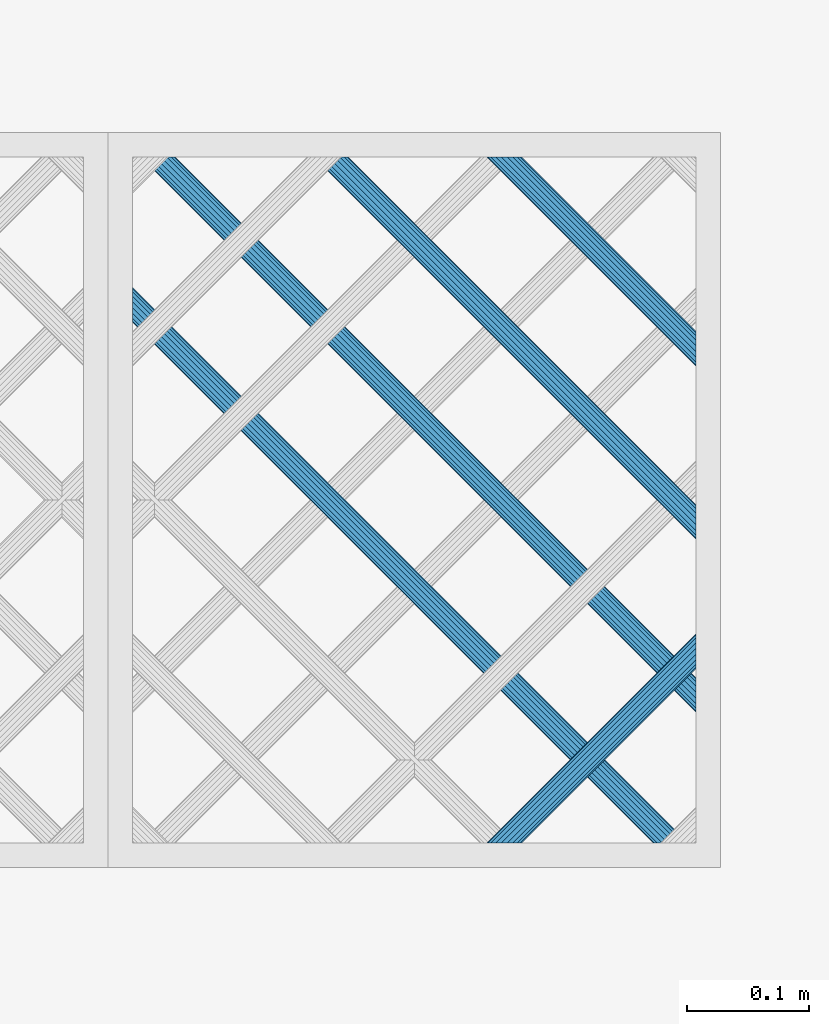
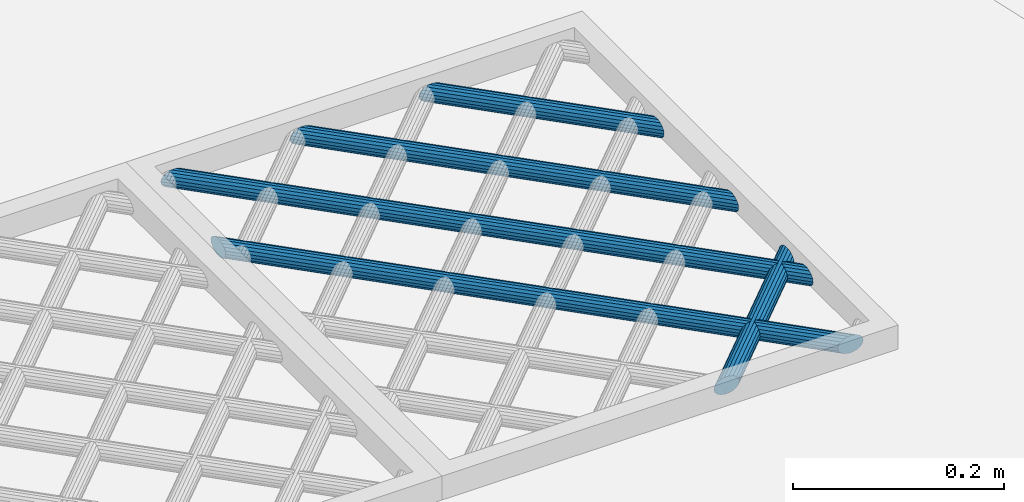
# One storey, part 77 of 133: 5 members, 1 element without a shape of its own.
"""IFC2X3 building model written with IfcOpenShell, lengths in centimetres."""

from ifc_helpers import new_model, entity, si_unit, converted_unit, direction, frame, origin, origin_with_axes, place, context, subcontext, project, spatial, faceted_brep, material, type_object, element, aggregate, save


model = new_model("IFC2X3")

# Units and contexts
model_context = context("Model", 3, precision=0.0001, world=origin(), true_north=direction((0.225632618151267, 0.974212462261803, 0.0)))
body_context = subcontext(model_context, "Body", "Model", "MODEL_VIEW")
ifc_project = project(units=[si_unit("LENGTHUNIT", "METRE", prefix="CENTI"), si_unit("AREAUNIT", "SQUARE_METRE", prefix="CENTI"), si_unit("VOLUMEUNIT", "CUBIC_METRE", prefix="CENTI"), converted_unit("PLANEANGLEUNIT", "DEGREE", entity("IfcRatioMeasure", 0.0174532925), si_unit("PLANEANGLEUNIT", "RADIAN"), dimensions=[0, 0, 0, 0, 0, 0, 0])], contexts=[model_context])

# Site, building, storey
site_placement = place(None, origin_with_axes())
site = spatial("IfcSite", under=ifc_project, at=site_placement, Name="Default Site", CompositionType="ELEMENT")
building_placement = place(site_placement, origin_with_axes())
building = spatial("IfcBuilding", under=site, at=building_placement, Name="Default Building", CompositionType="ELEMENT")
storey_placement = place(building_placement, frame((0.0, 0.0, -291.400371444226), z_axis=(0.0, 0.0, 1.0), x_axis=(1.0, 0.0, 0.0)))
storey = spatial("IfcBuildingStorey", under=building, at=storey_placement, Name="Rez-de-Jardin", CompositionType="ELEMENT", Elevation=-291.400371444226)

# Assembly, members
building_element_proxy_type = type_object("IfcBuildingElementProxyType", Name="Type Object", PredefinedType="NOTDEFINED")
assembly_placement = place(storey_placement, frame((23.728219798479, 1298.33524038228, 113.0), z_axis=(0.0, 1.0, -2.38697950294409e-15), x_axis=(1.0, 0.0, 0.0)))
assembly = element("IfcElementAssembly", 1, at=assembly_placement, inside=storey, type_object=building_element_proxy_type, Name="Panneau 326485", ObjectType="Precast panel", PredefinedType="USERDEFINED")
ifc_material = material(Name="Aluminium satiné")
member_1_placement = place(assembly_placement, frame((47.9999989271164, 0.3420201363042, 16.3157343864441), z_axis=(0.999999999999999, 0.0, 0.0), x_axis=(0.0, -0.774596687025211, -0.632455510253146)))
member_1 = element("IfcMember", 2, at=member_1_placement, material=ifc_material, Name="4294966878", context=body_context, shape_type="Brep", body=[
    faceted_brep([(2.13717932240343e-13, -1.06858966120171e-13, 0.0), (-0.388289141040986, -1.06858966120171e-13, 0.0), (-0.799165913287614, -0.15024930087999, 0.0), (-1.18307291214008, -0.432626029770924, 0.0), (-1.49370420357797, -0.813070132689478, 0.0), (-1.69359339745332, -1.24569483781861, 0.0), (-1.75863166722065, -1.67832007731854, 0.0), (-1.68097381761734, -2.05876418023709, 0.0), (-1.46998625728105, -2.34113956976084, 0.0), (-1.15111848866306, -2.49138921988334, 0.0), (-0.762829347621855, -2.49138921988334, 0.0), (-0.351952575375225, -2.34113991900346, 0.0), (0.0319534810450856, -2.05876434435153, 0.0), (0.342584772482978, -1.67832024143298, 0.0), (0.542474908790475, -1.24569438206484, 0.0), (0.607513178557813, -0.813069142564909, 0.0), (0.529855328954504, -0.432625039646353, 0.0), (0.318867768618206, -0.150249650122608, 0.0), (9.31899278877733, 10.8726079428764, -14.2304450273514), (9.58392045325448, 10.6562954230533, -14.3157333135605), (9.81689394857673, 10.466073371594, -14.5613104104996), (9.98981319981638, 10.324885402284, -14.9375528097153), (10.0818216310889, 10.2497608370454, -15.3990834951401), (10.0818216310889, 10.2497608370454, -15.890234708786), (9.98981319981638, 10.324885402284, -16.3517653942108), (9.81689394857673, 10.466073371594, -16.7280107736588), (9.58392045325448, 10.6562954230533, -16.9735848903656), (9.31899278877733, 10.8726079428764, -17.0588731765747), (9.05406512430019, 11.0889204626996, -16.9735848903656), (8.82109162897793, 11.2791425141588, -16.7280107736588), (8.64817237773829, 11.4203304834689, -16.3517653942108), (8.55616394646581, 11.4954550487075, -15.890234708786), (8.55616394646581, 11.4954550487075, -15.3990834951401), (8.64817237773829, 11.4203304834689, -14.9375528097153), (8.82109162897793, 11.2791425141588, -14.5613104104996), (9.05406512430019, 11.0889204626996, -14.3157333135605), (0.529855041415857, -0.432625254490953, -3.48273316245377e-07), (9.58391971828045, 10.6562948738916, -14.3157342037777), (9.31899174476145, 10.8726071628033, -14.2304462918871), (0.607513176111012, -0.813069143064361, -1.93436589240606e-09), (9.81689412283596, 10.4660734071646, -14.5613102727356), (9.58391992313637, 10.6562953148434, -14.3157337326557), (0.542475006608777, -1.24569439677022, 5.04749817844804e-08), (9.98981285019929, 10.3248854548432, -14.9375529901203), (9.81689409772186, 10.4660733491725, -14.5613103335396), (0.34258496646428, -1.67832033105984, 5.32598692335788e-08), (10.0818212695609, 10.2497610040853, -15.3990835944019), (9.98981296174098, 10.3248855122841, -14.9375528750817), (-0.351952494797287, -2.34114002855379, -3.38953654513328e-08), (9.98981364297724, 10.3248847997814, -16.3517655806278), (10.0818219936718, 10.2497603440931, -15.8902348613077), (-0.762829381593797, -2.49138912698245, 5.04749821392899e-08), (9.81689406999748, 10.4660730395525, -16.7280109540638), (9.98981356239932, 10.3248844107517, -16.3517659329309), (-1.15111848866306, -2.4913892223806, -1.93436714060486e-09), (9.58392045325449, 10.6562941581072, -16.9735858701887), (9.81689394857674, 10.4660728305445, -16.7280111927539), (-1.46998641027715, -2.34113989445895, -3.48273315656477e-07), (9.31899239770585, 10.8726071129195, -17.0588740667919), (9.58391989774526, 10.6562942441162, -16.9735861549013), (-1.6809735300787, -2.05876396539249, 3.48273315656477e-07), (9.05406436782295, 11.088919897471, -16.973585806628), (9.31899234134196, 10.8726076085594, -17.0588737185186), (-1.75863166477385, -1.67832007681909, 1.93436650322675e-09), (8.82109110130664, 11.2791424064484, -16.7280111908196), (9.05406388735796, 11.0889202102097, -16.9735858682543), (-1.69359349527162, -1.24569482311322, -5.04749811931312e-08), (8.64817123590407, 11.420330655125, -16.3517659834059), (8.82109118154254, 11.2791425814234, -16.7280110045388), (-1.49370408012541, -0.813070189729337, 3.38953655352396e-08), (8.5561635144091, 11.4954552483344, -15.8902348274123), (8.64817182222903, 11.4203307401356, -16.3517655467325), (-0.799165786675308, -0.150249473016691, -5.3259868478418e-08), (8.64817265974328, 11.4203301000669, -14.9375529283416), (8.55616430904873, 11.4954545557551, -15.3990836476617), (-0.388289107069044, -9.29009993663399e-08, -5.04749817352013e-08), (8.82109161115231, 11.2791425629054, -14.5613103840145), (8.64817253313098, 11.4203300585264, -14.9375530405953), (2.13692234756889e-13, 2.49714834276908e-09, 1.93436558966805e-09), (9.05406512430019, 11.0889199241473, -14.3157337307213), (8.82109162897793, 11.2791426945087, -14.5613102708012), (0.318867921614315, -0.150249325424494, 3.48273315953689e-07), (9.31899238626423, 10.8726070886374, -14.2304459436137), (9.05406488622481, 11.0889199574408, -14.3157338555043)], [[[0, 1, 2, 3, 4, 5, 6, 7, 8, 9, 10, 11, 12, 13, 14, 15, 16, 17]], [[18, 19, 20, 21, 22, 23, 24, 25, 26, 27, 28, 29, 30, 31, 32, 33, 34, 35]], [[17, 36, 37, 38]], [[16, 39, 40, 41]], [[15, 42, 43, 44]], [[14, 45, 46, 47]], [[13, 12, 23, 22]], [[12, 48, 49, 50]], [[11, 51, 52, 53]], [[10, 54, 55, 56]], [[9, 57, 58, 59]], [[8, 60, 61, 62]], [[7, 63, 64, 65]], [[6, 66, 67, 68]], [[5, 69, 70, 71]], [[4, 3, 32, 31]], [[3, 72, 73, 74]], [[2, 75, 76, 77]], [[1, 78, 79, 80]], [[0, 81, 82, 83]]]),
])
member_2_placement = place(assembly_placement, frame((47.9999989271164, 0.342020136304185, 41.0264134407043), z_axis=(0.999999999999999, 0.0, 0.0), x_axis=(0.0, -0.774598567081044, -0.632453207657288)))
member_2 = element("IfcMember", 3, at=member_2_placement, material=ifc_material, Name="4294966875", context=body_context, shape_type="Brep", body=[
    faceted_brep([(-2.1094237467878e-13, 5.55111512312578e-15, 0.0), (-0.388288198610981, 5.55111512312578e-15, 0.0), (-0.799165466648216, -0.150251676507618, 0.0), (-1.18307068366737, -0.432628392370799, 0.0), (-1.49370084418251, -0.813073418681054, 0.0), (-1.69358875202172, -1.24569871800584, 0.0), (-1.75862667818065, -1.6783253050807, 0.0), (-1.68096675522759, -2.05876802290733, 0.0), (-1.46997929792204, -2.34114393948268, 0.0), (-1.1511101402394, -2.49139148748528, 0.0), (-0.762821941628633, -2.49139148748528, 0.0), (-0.351944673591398, -2.34113981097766, 0.0), (0.0319605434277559, -2.05876309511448, 0.0), (0.342590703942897, -1.67831806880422, 0.0), (0.54247861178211, -1.24569276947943, 0.0), (0.607516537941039, -0.813066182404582, 0.0), (0.529856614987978, -0.432623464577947, 0.0), (0.318869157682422, -0.150247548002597, 0.0), (-10.4700699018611, -13.3640262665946, -17.0588731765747), (-10.205141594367, -13.5803379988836, -16.9735848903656), (-9.97216753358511, -13.7705593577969, -16.7280107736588), (-9.79924786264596, -13.9117468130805, -16.3517653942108), (-9.70723920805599, -13.9868711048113, -15.890234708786), (-9.70723920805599, -13.9868711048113, -15.3990834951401), (-9.79924786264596, -13.9117468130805, -14.9375528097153), (-9.97216753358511, -13.7705593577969, -14.5613104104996), (-10.205141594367, -13.5803379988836, -14.3157333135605), (-10.4700699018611, -13.3640262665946, -14.2304450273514), (-10.7349982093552, -13.1477145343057, -14.3157333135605), (-10.9679722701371, -12.9574931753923, -14.5613104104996), (-11.1408919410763, -12.8163057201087, -14.9375528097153), (-11.2329005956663, -12.7411814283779, -15.3990834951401), (-11.2329005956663, -12.7411814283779, -15.890234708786), (-11.1408919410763, -12.8163057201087, -16.3517653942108), (-10.9679722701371, -12.9574931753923, -16.7280107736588), (-10.7349982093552, -13.1477145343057, -16.9735848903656), (0.52985692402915, -0.432623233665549, -3.74318493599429e-07), (-10.2051412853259, -13.5803377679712, -16.9735852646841), (0.607515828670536, -0.813066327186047, 5.60727920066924e-07), (-9.97216824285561, -13.7705595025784, -16.7280102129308), (0.542479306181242, -1.2456928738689, -3.58315028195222e-07), (-9.79924716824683, -13.91174691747, -16.3517657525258), (-9.97216753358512, -13.7705593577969, -16.7280107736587), (0.342590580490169, -1.67831801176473, 3.38953650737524e-08), (-9.70723933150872, -13.9868710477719, -15.8902346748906), (0.031960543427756, -2.05876309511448, 0.0), (-0.351944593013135, -2.34113992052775, 3.3895365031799e-08), (-9.7992477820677, -13.9117469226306, -14.9375527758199), (-0.762822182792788, -2.4913908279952, -3.58315030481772e-07), (-9.9721673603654, -13.7705598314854, -14.5613101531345), (-1.15111014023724, -2.49139221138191, 5.60727920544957e-07), (-10.2051415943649, -13.5803387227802, -14.3157327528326), (-9.97216753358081, -13.7705608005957, -14.5613092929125), (-1.46997913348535, -2.34114359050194, -3.74318489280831e-07), (-10.4700697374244, -13.3640259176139, -14.2304454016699), (-1.68096706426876, -2.05876825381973, 3.74318492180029e-07), (-10.7349985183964, -13.1477147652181, -14.315732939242), (-1.75862596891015, -1.67832516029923, -5.60727919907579e-07), (-10.967972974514, -12.9574933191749, -14.5613098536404), (-1.69358944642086, -1.24569861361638, 3.58315028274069e-07), (-11.1408926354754, -12.8163056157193, -14.9375524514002), (-10.9679734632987, -12.9574929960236, -14.5613097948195), (-1.49370072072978, -0.813073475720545, -3.3895365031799e-08), (-11.2329004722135, -12.7411814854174, -15.3990835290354), (-1.18307068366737, -0.432628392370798, 0.0), (-0.799165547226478, -0.150251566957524, -3.3895365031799e-08), (-11.1408920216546, -12.8163056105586, -16.3517654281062), (-0.388287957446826, -6.59490078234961e-07, 3.58315030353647e-07), (-10.967972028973, -12.9574938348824, -16.7280104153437), (-2.37027176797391e-12, 7.23896627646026e-07, -5.60727920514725e-07), (-10.7349982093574, -13.147713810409, -16.9735854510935), (0.318868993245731, -0.150247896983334, 3.74318491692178e-07), (-10.4700700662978, -13.3640266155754, -17.0588728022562)], [[[0, 1, 2, 3, 4, 5, 6, 7, 8, 9, 10, 11, 12, 13, 14, 15, 16, 17]], [[18, 19, 20, 21, 22, 23, 24, 25, 26, 27, 28, 29, 30, 31, 32, 33, 34, 35]], [[17, 36, 37, 18]], [[16, 38, 39, 19]], [[15, 40, 41, 42]], [[14, 43, 44, 21]], [[13, 45, 23, 22]], [[12, 46, 47, 23]], [[11, 48, 49, 24]], [[10, 50, 51, 52]], [[9, 53, 54, 26]], [[8, 55, 56, 27]], [[7, 57, 58, 28]], [[6, 59, 60, 61]], [[5, 62, 63, 30]], [[4, 64, 32, 31]], [[3, 65, 66, 32]], [[2, 67, 68, 33]], [[1, 69, 70, 34]], [[0, 71, 72, 35]]]),
])
member_3_placement = place(assembly_placement, frame((47.9999989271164, 0.342020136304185, 26.8842786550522), z_axis=(0.999999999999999, 0.0, 0.0), x_axis=(0.0, -0.774598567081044, -0.632453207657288)))
member_3 = element("IfcMember", 4, at=member_3_placement, material=ifc_material, Name="4294966874", context=body_context, shape_type="Brep", body=[
    faceted_brep([(-9.15933995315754e-14, 1.13797860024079e-13, 0.0), (-0.388288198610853, 1.13797860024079e-13, 0.0), (-0.799163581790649, -0.15024936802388, 0.0), (-1.18307068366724, -0.432628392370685, 0.0), (-1.49370084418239, -0.813073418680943, 0.0), (-1.6935887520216, -1.24569871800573, 0.0), (-1.75862479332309, -1.67832299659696, 0.0), (-1.68096675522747, -2.05876802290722, 0.0), (-1.46997741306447, -2.34114163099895, 0.0), (-1.15111014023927, -2.49139148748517, 0.0), (-0.762820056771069, -2.49138917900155, 0.0), (-0.351944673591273, -2.34113981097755, 0.0), (0.0319605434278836, -2.05876309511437, 0.0), (0.342590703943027, -1.67831806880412, 0.0), (0.542480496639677, -1.2456904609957, 0.0), (0.607516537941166, -0.813066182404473, 0.0), (0.529856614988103, -0.432623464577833, 0.0), (0.31886915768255, -0.150247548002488, 0.0), (-19.4143084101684, -24.3185036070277, -31.201009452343), (-19.1493801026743, -24.5348153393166, -31.1157211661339), (-18.9164060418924, -24.72503669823, -30.8701455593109), (-18.7434863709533, -24.8662241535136, -30.4939016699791), (-18.6514777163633, -24.9413484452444, -30.0323709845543), (-18.6514777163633, -24.9413484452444, -29.5412197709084), (-18.7434863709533, -24.8662241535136, -29.0796890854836), (-18.9164060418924, -24.72503669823, -28.7034451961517), (-19.1493801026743, -24.5348153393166, -28.4578695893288), (-19.4143084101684, -24.3185036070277, -28.3725813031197), (-19.6792367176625, -24.1021918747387, -28.4578695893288), (-19.9122107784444, -23.9119705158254, -28.7034451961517), (-20.0851304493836, -23.7707830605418, -29.0796890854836), (-20.1771391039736, -23.695658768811, -29.5412197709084), (-20.1771391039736, -23.695658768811, -30.0323709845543), (-20.0851304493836, -23.7707830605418, -30.4939016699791), (-19.9122107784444, -23.9119705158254, -30.8701455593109), (-19.6792367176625, -24.1021918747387, -31.1157211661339), (0.529856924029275, -0.432623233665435, -3.74318493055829e-07), (-19.1493803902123, -24.5348155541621, -31.1157208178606), (-19.4143090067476, -24.3185040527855, -31.2010087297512), (0.607515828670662, -0.813066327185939, 5.60727920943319e-07), (-18.9164067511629, -24.7250368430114, -30.870144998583), (-19.149380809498, -24.5348154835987, -31.1157206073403), (0.542479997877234, -1.24569038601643, 2.57365066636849e-07), (-18.7434862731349, -24.8662241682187, -30.4939017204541), (0.342591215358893, -1.67831830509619, -1.4041510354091e-07), (-18.6514775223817, -24.9413485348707, -30.0323710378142), (-18.743486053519, -24.8662243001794, -30.4939017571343), (0.0319605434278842, -2.05876309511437, 0.0), (-0.35194459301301, -2.34113992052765, 3.38953653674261e-08), (-18.7434860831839, -24.8662245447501, -29.079688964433), (-18.6514775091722, -24.9413487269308, -29.5412196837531), (-0.76281988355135, -2.49138965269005, 2.57365066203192e-07), (-18.9164058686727, -24.7250371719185, -28.7034449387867), (-18.7434861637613, -24.8662247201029, -29.0796887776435), (-1.15111014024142, -2.49139076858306, -5.56859187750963e-07), (-19.1493801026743, -24.5348153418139, -28.4578695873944), (-1.46997788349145, -2.34114262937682, 1.07086512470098e-06), (-19.4143085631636, -24.3185039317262, -28.3725809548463), (-19.1493804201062, -24.534816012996, -28.457868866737), (-1.68096587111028, -2.05876736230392, -1.07086512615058e-06), (-19.6792364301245, -24.1021916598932, -28.4578699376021), (-19.4143078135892, -24.3185031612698, -28.3725820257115), (-1.75862549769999, -1.67832314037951, 5.56859190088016e-07), (-19.9122114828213, -23.9119706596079, -28.7034446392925), (-19.6792374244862, -24.1021920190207, -28.4578690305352), (-1.69358825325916, -1.24569879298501, -2.57365066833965e-07), (-20.0851305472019, -23.7707830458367, -29.0796890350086), (-1.49370072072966, -0.813073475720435, -3.38953657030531e-08), (-20.1771392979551, -23.6956586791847, -29.5412197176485), (-20.0851307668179, -23.770782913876, -29.0796889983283), (-1.18307068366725, -0.432628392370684, 0.0), (-0.799163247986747, -0.150249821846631, 1.40415104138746e-07), (-20.0851303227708, -23.7707832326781, -30.4939016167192), (-20.1771388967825, -23.6956590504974, -30.0323708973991), (-0.388288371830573, 4.73688615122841e-07, -2.5736506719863e-07), (-19.9122109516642, -23.9119700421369, -30.870145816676), (-20.0851306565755, -23.7707824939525, -30.4939019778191), (-2.25092279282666e-12, 7.23896735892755e-07, -5.60727920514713e-07), (-19.6792367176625, -24.1021918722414, -31.1157211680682), (0.318868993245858, -0.150247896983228, 3.74318493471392e-07), (-19.4143088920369, -24.3185046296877, -31.2010083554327), (-19.6792370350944, -24.102192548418, -31.1157204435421)], [[[0, 1, 2, 3, 4, 5, 6, 7, 8, 9, 10, 11, 12, 13, 14, 15, 16, 17]], [[18, 19, 20, 21, 22, 23, 24, 25, 26, 27, 28, 29, 30, 31, 32, 33, 34, 35]], [[17, 36, 37, 38]], [[16, 39, 40, 41]], [[15, 42, 43, 20]], [[14, 44, 45, 46]], [[13, 47, 23, 22]], [[12, 48, 49, 50]], [[11, 51, 52, 53]], [[10, 54, 55, 25]], [[9, 56, 57, 58]], [[8, 59, 60, 61]], [[7, 62, 63, 64]], [[6, 65, 66, 29]], [[5, 67, 68, 69]], [[4, 70, 32, 31]], [[3, 71, 72, 73]], [[2, 74, 75, 76]], [[1, 77, 78, 34]], [[0, 79, 80, 81]]]),
])
member_4_placement = place(assembly_placement, frame((47.9999989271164, 0.342020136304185, 12.7421423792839), z_axis=(0.999999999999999, 0.0, 0.0), x_axis=(0.0, -0.774596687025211, -0.632455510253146)))
member_4 = element("IfcMember", 5, at=member_4_placement, material=ifc_material, Name="4294966873", context=body_context, shape_type="Brep", body=[
    faceted_brep([(-8.32667268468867e-14, -1.51267887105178e-13, 0.0), (-0.388289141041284, -1.49880108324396e-13, 0.0), (-0.799164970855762, -0.150248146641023, 0.0), (-1.18307196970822, -0.43262487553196, 0.0), (-1.49370326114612, -0.813068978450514, 0.0), (-1.69359245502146, -1.24569368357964, 0.0), (-1.7586307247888, -1.67831892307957, 0.0), (-1.68097287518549, -2.05876302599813, 0.0), (-1.46998531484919, -2.34113841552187, 0.0), (-1.1511175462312, -2.49138806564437, 0.0), (-0.762828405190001, -2.49138806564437, 0.0), (-0.351951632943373, -2.34113876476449, 0.0), (0.0319544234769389, -2.05876319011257, 0.0), (0.342585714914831, -1.67831908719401, 0.0), (0.542475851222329, -1.24569322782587, 0.0), (0.607513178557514, -0.813069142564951, 0.0), (0.529855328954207, -0.432625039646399, 0.0), (0.318868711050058, -0.150248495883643, 0.0), (-28.3586527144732, -35.272897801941, -45.3431446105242), (-28.093725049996, -35.4892103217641, -45.2578572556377), (-27.8607515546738, -35.6794323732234, -45.0122816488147), (-27.6878323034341, -35.8206203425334, -44.6360379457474), (-27.5958238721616, -35.895744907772, -44.1745068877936), (-27.5958238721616, -35.895744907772, -43.6833556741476), (-27.6878323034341, -35.8206203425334, -43.2218242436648), (-27.8607515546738, -35.6794323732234, -42.845580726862), (-28.093725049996, -35.4892103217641, -42.600005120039), (-28.3586527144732, -35.272897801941, -42.514717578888), (-28.6235803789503, -35.0565852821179, -42.600005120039), (-28.8565538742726, -34.8663632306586, -42.845580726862), (-29.0294731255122, -34.7251752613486, -43.2218242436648), (-29.1214815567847, -34.65005069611, -43.6833556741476), (-29.1214815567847, -34.65005069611, -44.1745068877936), (-29.0294731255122, -34.7251752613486, -44.6360379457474), (-28.8565538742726, -34.8663632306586, -45.0122816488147), (-28.6235803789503, -35.0565852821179, -45.2578572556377), (0.529855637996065, -0.43262480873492, -3.74318492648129e-07), (-28.0937252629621, -35.4892104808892, -45.2578569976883), (-28.3586528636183, -35.27289791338, -45.3431444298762), (0.607513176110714, -0.813069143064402, 1.93436560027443e-09), (-27.8607521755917, -35.6794324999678, -45.012281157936), (-28.0937256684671, -35.489210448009, -45.2578567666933), (0.542475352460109, -1.24569315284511, 2.57365066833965e-07), (-27.6878328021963, -35.8206202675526, -44.6360376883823), (-27.8607520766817, -35.679432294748, -45.0122813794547), (0.342585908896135, -1.67831917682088, -5.32598695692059e-08), (-27.5958239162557, -35.8957448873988, -44.174506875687), (-0.351951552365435, -2.34113887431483, 3.38953655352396e-08), (-27.6878321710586, -35.8206205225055, -43.2218241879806), (-27.5958237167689, -35.8957451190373, -43.6833556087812), (-0.762828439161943, -2.49138797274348, -5.04749810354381e-08), (-27.8607514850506, -35.6794325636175, -42.8455806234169), (-27.6878322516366, -35.8206204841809, -43.2218241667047), (-1.1511175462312, -2.49138806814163, 1.93436565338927e-09), (-28.093725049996, -35.4892106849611, -42.6000048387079), (-27.8607515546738, -35.6794327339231, -42.8455804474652), (-1.4699854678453, -2.34113874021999, 3.48273316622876e-07), (-28.3586528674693, -35.2728981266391, -42.5147172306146), (-28.093725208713, -35.4892106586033, -42.6000047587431), (-1.68097258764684, -2.05876281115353, -3.48273315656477e-07), (-28.6235803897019, -35.0565852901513, -42.6000051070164), (-1.758630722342, -1.67831892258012, -1.93436629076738e-09), (-28.8565542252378, -34.8663633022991, -42.8455804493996), (-28.6235807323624, -35.0565853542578, -42.6000048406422), (-1.69359255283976, -1.24569366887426, 5.0474981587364e-08), (-29.0294733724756, -34.7251752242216, -43.2218241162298), (-28.8565541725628, -34.8663631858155, -42.845580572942), (-1.49370313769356, -0.813069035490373, -3.38953655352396e-08), (-29.1214816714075, -34.6500506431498, -43.6833556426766), (-29.0294732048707, -34.7251752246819, -43.221824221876), (-0.799164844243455, -0.150248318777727, 5.32598691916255e-08), (-29.0294729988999, -34.7251754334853, -44.6360378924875), (-29.121481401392, -34.6500509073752, -44.1745068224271), (-0.388289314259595, 4.73688863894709e-07, -2.57365065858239e-07), (-28.8565538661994, -34.8663632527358, -45.0122816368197), (-8.32924243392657e-14, 2.49710480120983e-09, -1.93436626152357e-09), (-28.6235803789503, -35.0565859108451, -45.2578567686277), (-28.8565538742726, -34.866363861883, -45.0122811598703), (0.318868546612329, -0.150248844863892, 3.74318492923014e-07), (-28.3586529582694, -35.2728983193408, -45.3431440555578), (-28.6235806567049, -35.0565858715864, -45.2578566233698)], [[[0, 1, 2, 3, 4, 5, 6, 7, 8, 9, 10, 11, 12, 13, 14, 15, 16, 17]], [[18, 19, 20, 21, 22, 23, 24, 25, 26, 27, 28, 29, 30, 31, 32, 33, 34, 35]], [[17, 36, 37, 38]], [[16, 39, 40, 41]], [[15, 42, 43, 44]], [[14, 45, 46, 21]], [[13, 12, 23, 22]], [[12, 47, 48, 49]], [[11, 50, 51, 52]], [[10, 53, 54, 55]], [[9, 56, 57, 58]], [[8, 59, 60, 27]], [[7, 61, 62, 63]], [[6, 64, 65, 66]], [[5, 67, 68, 69]], [[4, 3, 32, 31]], [[3, 70, 71, 72]], [[2, 73, 74, 33]], [[1, 75, 76, 77]], [[0, 78, 79, 80]]]),
])
member_5_placement = place(assembly_placement, frame((44.6000069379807, 0.3420201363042, 1.99999995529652), z_axis=(1.16937492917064e-15, 1.4321947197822e-15, -1.0), x_axis=(-0.632453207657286, -0.774598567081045, -1.84895090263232e-15)))
member_5 = element("IfcMember", 6, at=member_5_placement, material=ifc_material, Name="4294966872", context=body_context, shape_type="Brep", body=[
    faceted_brep([(-5.55111512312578e-15, 5.55111512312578e-15, 5.23886489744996e-14), (-0.388288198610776, 1.11022302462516e-14, 5.31065747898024e-14), (-0.799165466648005, -0.150251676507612, 5.3866266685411e-14), (-1.18307068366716, -0.432628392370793, 5.45760885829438e-14), (-1.49370084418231, -0.813073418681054, 5.51504284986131e-14), (-1.69358875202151, -1.24569871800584, 5.55200114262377e-14), (-1.758624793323, -1.67832299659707, 5.56402598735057e-14), (-1.68096675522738, -2.05876802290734, 5.54966739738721e-14), (-1.46997929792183, -2.34114393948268, 5.51065685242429e-14), (-1.15111014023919, -2.49139148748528, 5.4516995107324e-14), (-0.762820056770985, -2.49138917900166, 5.37990658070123e-14), (-0.351944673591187, -2.34113981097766, 5.30393773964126e-14), (0.0319605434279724, -2.05876309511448, 5.23295554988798e-14), (0.342590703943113, -1.67831806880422, 5.17552155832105e-14), (0.542478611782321, -1.24569276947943, 5.13856326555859e-14), (0.607516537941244, -0.813066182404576, 5.1265380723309e-14), (0.529856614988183, -0.432623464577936, 5.14089701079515e-14), (0.318869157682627, -0.150247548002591, 5.17990755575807e-14), (27.2074393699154, 32.7815926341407, -42.514718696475), (27.4723676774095, 32.5652809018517, -42.6000069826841), (27.7053417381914, 32.3750595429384, -42.845581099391), (27.8782614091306, 32.2338720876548, -43.2218264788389), (27.9702700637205, 32.158747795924, -43.6833571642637), (27.9702700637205, 32.158747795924, -44.1745083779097), (27.8782614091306, 32.2338720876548, -44.6360390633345), (27.7053417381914, 32.3750595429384, -45.0122814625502), (27.4723676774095, 32.5652809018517, -45.2578585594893), (27.2074393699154, 32.7815926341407, -45.3431468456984), (26.9425110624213, 32.9979043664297, -45.2578585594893), (26.7095370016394, 33.188125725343, -45.0122814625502), (26.5366173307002, 33.3293131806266, -44.6360390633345), (26.4446086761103, 33.4044374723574, -44.1745083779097), (26.4446086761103, 33.4044374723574, -43.6833571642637), (26.5366173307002, 33.3293131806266, -43.2218264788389), (26.7095370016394, 33.188125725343, -42.845581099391), (26.9425110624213, 32.9979043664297, -42.6000069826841), (0.318869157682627, -0.150247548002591, 5.20417042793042e-14), (0.529856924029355, -0.432623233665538, 3.74318544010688e-07), (27.4723679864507, 32.5652811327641, -42.6000066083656), (0.529856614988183, -0.432623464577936, 5.16947595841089e-14), (0.607515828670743, -0.813066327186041, -5.60727867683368e-07), (27.7053410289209, 32.375059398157, -42.8455816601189), (0.607516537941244, -0.813066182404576, 5.13478148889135e-14), (0.542479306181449, -1.24569287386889, 3.58315077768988e-07), (27.8782621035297, 32.2338719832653, -43.2218261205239), (0.542478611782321, -1.24569276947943, 5.13478148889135e-14), (0.342590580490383, -1.67831801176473, -3.38953139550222e-08), (27.9702699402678, 32.1587478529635, -43.6833571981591), (0.342590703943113, -1.67831806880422, 5.20417042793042e-14), (0.0319605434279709, -2.05876309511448, 5.27355936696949e-14), (0.0319605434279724, -2.05876309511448, 5.27355936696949e-14), (-0.351944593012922, -2.34113992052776, -3.38953129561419e-08), (27.8782614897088, 32.2338719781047, -44.6360390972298), (-0.351944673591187, -2.34113981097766, 5.30825383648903e-14), (-0.762819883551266, -2.49138965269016, -2.57365012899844e-07), (27.7053419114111, 32.3750590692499, -45.0122817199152), (-0.762820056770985, -2.49138917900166, 5.3776427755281e-14), (-1.15111014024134, -2.49139076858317, 5.56859243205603e-07), (27.4723676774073, 32.5652816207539, -45.2578580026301), (-1.15111014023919, -2.49139148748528, 5.48172618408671e-14), (-1.46997913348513, -2.34114359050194, 3.7431854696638e-07), (27.2074395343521, 32.7815929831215, -45.3431464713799), (-1.46997929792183, -2.34114393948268, 5.55111512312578e-14), (-1.68096706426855, -2.05876825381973, -3.74318434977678e-07), (26.9425107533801, 32.9979041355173, -45.2578589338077), (27.2074393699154, 32.7815926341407, -45.3431468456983), (-1.68096675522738, -2.05876802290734, 5.55111512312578e-14), (-1.75862549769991, -1.67832314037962, -5.56859134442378e-07), (26.7095362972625, 33.1881255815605, -45.0122820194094), (-1.758624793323, -1.67832299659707, 5.58580959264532e-14), (-1.69358825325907, -1.24569879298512, 2.57365120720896e-07), (26.5366178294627, 33.3293131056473, -44.6360388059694), (-1.69358875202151, -1.24569871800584, 5.58580959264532e-14), (-1.49370072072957, -0.813073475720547, 3.38954214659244e-08), (26.444608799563, 33.4044374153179, -44.1745083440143), (-1.49370084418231, -0.813073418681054, 5.55111512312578e-14), (-1.18307068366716, -0.432628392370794, 5.48172618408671e-14), (-1.18307068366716, -0.432628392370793, 5.48172618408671e-14), (-0.79916554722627, -0.150251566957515, 3.3895420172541e-08), (26.536617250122, 33.3293132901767, -43.2218264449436), (-0.799165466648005, -0.150251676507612, 5.41233724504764e-14), (-0.38828795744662, -6.59490073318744e-07, -3.58314977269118e-07), (26.7095372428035, 33.1881250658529, -42.845581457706), (-0.388288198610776, 1.11022302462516e-14, 5.34294830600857e-14), (-2.16488052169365e-12, 7.23896631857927e-07, 5.60727976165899e-07), (26.9425110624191, 32.9979050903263, -42.6000064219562), (0.318868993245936, -0.150247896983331, -3.74318441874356e-07), (27.2074392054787, 32.78159228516, -42.5147190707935)], [[[0, 1, 2, 3, 4, 5, 6, 7, 8, 9, 10, 11, 12, 13, 14, 15, 16, 17]], [[18, 19, 20, 21, 22, 23, 24, 25, 26, 27, 28, 29, 30, 31, 32, 33, 34, 35]], [[36, 37, 38, 18]], [[39, 40, 41, 19]], [[42, 43, 44, 20]], [[45, 46, 47, 21]], [[48, 49, 23, 22]], [[50, 51, 52, 23]], [[53, 54, 55, 24]], [[56, 57, 58, 25]], [[59, 60, 61, 26]], [[62, 63, 64, 65]], [[66, 67, 68, 28]], [[69, 70, 71, 29]], [[72, 73, 74, 30]], [[75, 76, 32, 31]], [[77, 78, 79, 32]], [[80, 81, 82, 33]], [[83, 84, 85, 34]], [[0, 86, 87, 35]]]),
])
aggregate(assembly, [member_1, member_2, member_3, member_4, member_5])

save(model, "model.ifc")
